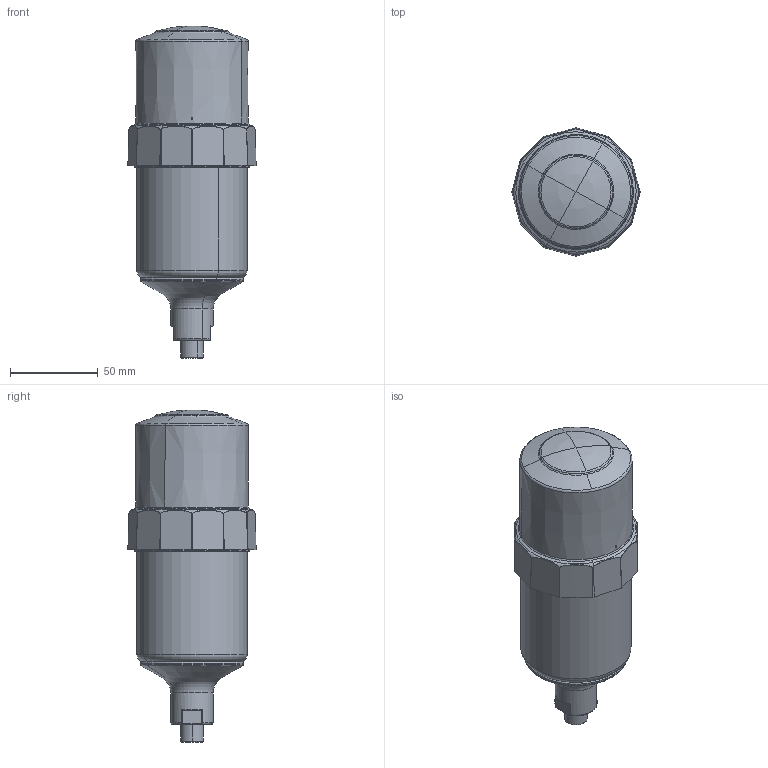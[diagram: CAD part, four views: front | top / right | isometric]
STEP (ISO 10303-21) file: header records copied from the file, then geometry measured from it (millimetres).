
FILE_DESCRIPTION(('CATIA V5 STEP Exchange','CAx-IF Rec.Pracs.--- Model Styling and Organization---1.2---2011-12-15'),'2;1');
FILE_NAME('C:\Container_125ml_outside.stp','2015-02-26T09:24:07+00:00',('none'),('none'),'Version 5-6 Release 2012','CATIA V5 STEP AP214','none');
FILE_SCHEMA(('AUTOMOTIVE_DESIGN { 1 0 10303 214 1 1 1 1 }'));
Length unit declared in the file: millimetre
Products named in the file (7): Assembly; Montagem; Cylinder_125ml; Adaptador LAPN 1_4; Flange de suporte; Sistema mecanico; Cap
Assembly tree (6 placements, depth 3):
  Assembly
    Montagem
      Cylinder_125ml
      Adaptador LAPN 1_4
      Flange de suporte
    Sistema mecanico
      Cap
Bounding box: 73.26 x 73.26 x 189.66 mm (x, y, z)
Volume: 60830.8 mm3; surface area: 91916.4 mm2
Topology: 3 solids, 4 shells, 2280 faces, 5446 edges, 3148 vertices
Faces by surface type: plane 1049, bspline 600, cylinder 457, torus 74, cone 68, sphere 24, revolution 8
Entity records: 153091 total; most frequent: CARTESIAN_POINT 108023, ORIENTED_EDGE 10806, DIRECTION 5974, EDGE_CURVE 5421, VERTEX_POINT 3148, VECTOR 2382, LINE 2382, EDGE_LOOP 2299
